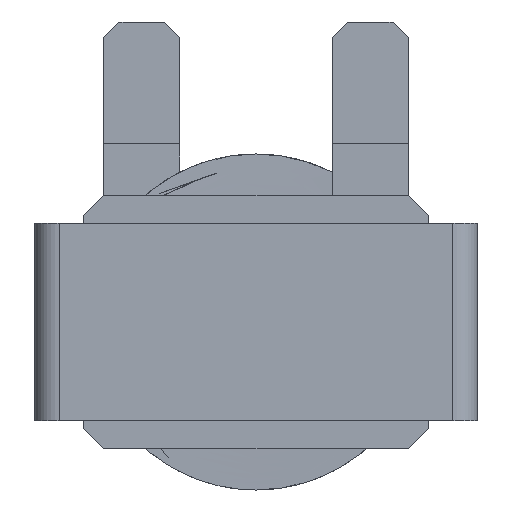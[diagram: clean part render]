
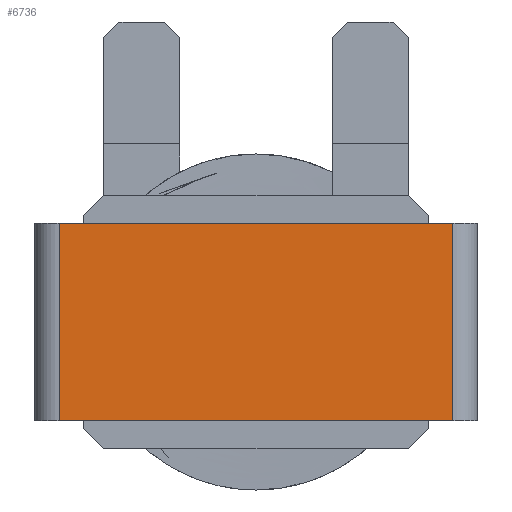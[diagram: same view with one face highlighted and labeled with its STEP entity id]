
A CAD part, front view. The second image highlights one B-rep face of the part: STEP entity #6736.
In plain terms, the highlighted planar face has unit normal (0, -1, 0).
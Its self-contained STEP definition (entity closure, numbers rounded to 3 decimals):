
#395 = VERTEX_POINT ( 'NONE', #2713 ) ;
#579 = DIRECTION ( 'NONE',  ( 1., 0., 0. ) ) ;
#1822 = EDGE_CURVE ( 'NONE', #5188, #9168, #17127, .T. ) ;
#2713 = CARTESIAN_POINT ( 'NONE',  ( -19.4, -7.141, -9.73 ) ) ;
#3028 = ORIENTED_EDGE ( 'NONE', *, *, #14517, .T. ) ;
#4102 = ORIENTED_EDGE ( 'NONE', *, *, #5375, .F. ) ;
#4588 = AXIS2_PLACEMENT_3D ( 'NONE', #6235, #17702, #11982 ) ;
#5188 = VERTEX_POINT ( 'NONE', #6711 ) ;
#5259 = CARTESIAN_POINT ( 'NONE',  ( 19.4, -7.141, -9.73 ) ) ;
#5375 = EDGE_CURVE ( 'NONE', #9168, #16339, #10811, .T. ) ;
#5567 = FACE_OUTER_BOUND ( 'NONE', #5962, .T. ) ;
#5962 = EDGE_LOOP ( 'NONE', ( #3028, #4102, #12675, #16478 ) ) ;
#6177 = PLANE ( 'NONE',  #4588 ) ;
#6235 = CARTESIAN_POINT ( 'NONE',  ( -19.4, -7.141, 9.73 ) ) ;
#6534 = VECTOR ( 'NONE', #6897, 1000. ) ;
#6711 = CARTESIAN_POINT ( 'NONE',  ( -19.4, -7.141, 9.73 ) ) ;
#6736 = ADVANCED_FACE ( 'NONE', ( #5567 ), #6177, .F. ) ;
#6897 = DIRECTION ( 'NONE',  ( 0., 0., -1. ) ) ;
#7292 = EDGE_CURVE ( 'NONE', #5188, #395, #14786, .T. ) ;
#7778 = CARTESIAN_POINT ( 'NONE',  ( -19.4, -7.141, 9.73 ) ) ;
#7789 = CARTESIAN_POINT ( 'NONE',  ( 19.4, -7.141, 9.73 ) ) ;
#9083 = LINE ( 'NONE', #18063, #14311 ) ;
#9168 = VERTEX_POINT ( 'NONE', #7789 ) ;
#9426 = VECTOR ( 'NONE', #579, 1000. ) ;
#10811 = LINE ( 'NONE', #12894, #6534 ) ;
#11982 = DIRECTION ( 'NONE',  ( 0., 0., 1. ) ) ;
#12675 = ORIENTED_EDGE ( 'NONE', *, *, #1822, .F. ) ;
#12894 = CARTESIAN_POINT ( 'NONE',  ( 19.4, -7.141, 9.73 ) ) ;
#13735 = DIRECTION ( 'NONE',  ( 1., 0., 0. ) ) ;
#13763 = DIRECTION ( 'NONE',  ( 0., 0., -1. ) ) ;
#14311 = VECTOR ( 'NONE', #13735, 1000. ) ;
#14517 = EDGE_CURVE ( 'NONE', #395, #16339, #9083, .T. ) ;
#14786 = LINE ( 'NONE', #18094, #18375 ) ;
#16339 = VERTEX_POINT ( 'NONE', #5259 ) ;
#16478 = ORIENTED_EDGE ( 'NONE', *, *, #7292, .T. ) ;
#17127 = LINE ( 'NONE', #7778, #9426 ) ;
#17702 = DIRECTION ( 'NONE',  ( 0., 1., 0. ) ) ;
#18063 = CARTESIAN_POINT ( 'NONE',  ( -19.4, -7.141, -9.73 ) ) ;
#18094 = CARTESIAN_POINT ( 'NONE',  ( -19.4, -7.141, 9.73 ) ) ;
#18375 = VECTOR ( 'NONE', #13763, 1000. ) ;
